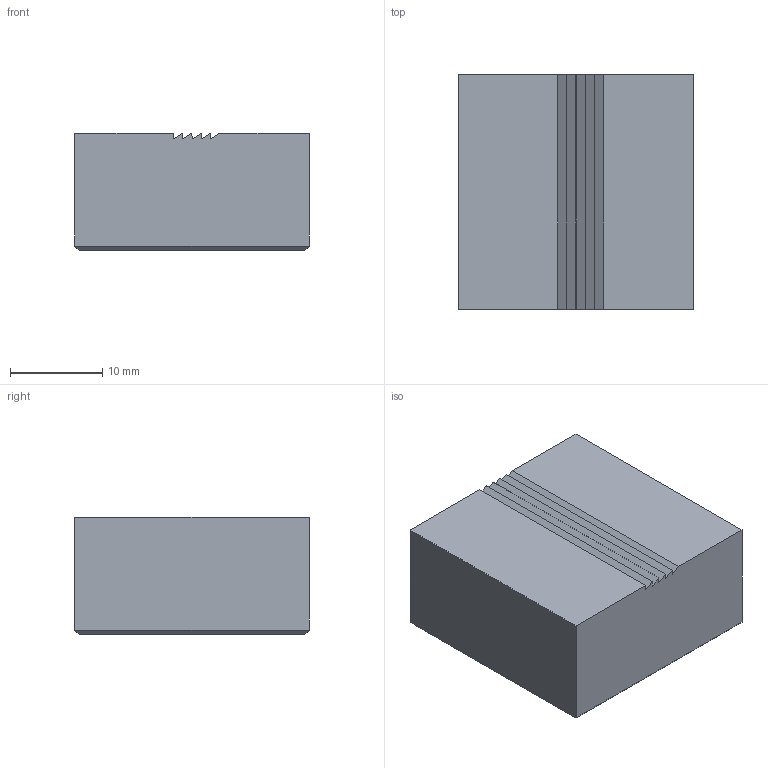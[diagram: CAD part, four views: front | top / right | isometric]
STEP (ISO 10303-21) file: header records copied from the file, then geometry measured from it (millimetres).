
FILE_DESCRIPTION((''),'2;1');
FILE_NAME('3532W008.stp','2001-04-09T10:31:37',(''),(''),'AutoCAD STEP 2000i','AutoCAD 2000i',', , ');
FILE_SCHEMA(('CONFIG_CONTROL_DESIGN'));
Length unit declared in the file: millimetre
Products named in the file (2): 3532D-MDTA; 3532D-MDT
Assembly tree (1 placements, depth 2):
  3532D-MDTA
    3532D-MDT
Bounding box: 25.4 x 25.4 x 12.7 mm (x, y, z)
Volume: 8142.9 mm3; surface area: 2644.8 mm2
Topology: 1 solids, 1 shells, 21 faces, 53 edges, 34 vertices
Faces by surface type: plane 21
Entity records: 724 total; most frequent: CARTESIAN_POINT 110, ORIENTED_EDGE 106, DIRECTION 99, VECTOR 53, LINE 53, EDGE_CURVE 53, VERTEX_POINT 34, AXIS2_PLACEMENT_3D 23
